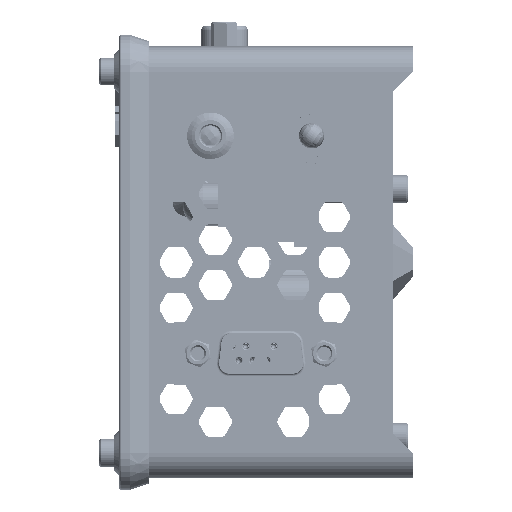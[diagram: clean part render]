
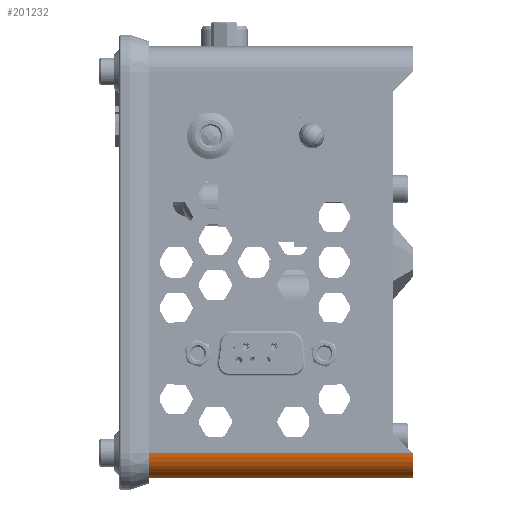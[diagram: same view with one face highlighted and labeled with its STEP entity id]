
A CAD part, left-side view. The second image highlights one B-rep face of the part: STEP entity #201232.
In plain terms, the highlighted cylindrical face has radius 5 mm (diameter 10 mm), a partial arc.
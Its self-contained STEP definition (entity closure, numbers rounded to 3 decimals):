
#1786 = EDGE_LOOP ( 'NONE', ( #117973, #18511, #179246, #23545 ) ) ;
#1978 = CIRCLE ( 'NONE', #123492, 5. ) ;
#9238 = CARTESIAN_POINT ( 'NONE',  ( -56., 26., -42.7 ) ) ;
#18511 = ORIENTED_EDGE ( 'NONE', *, *, #118849, .F. ) ;
#23545 = ORIENTED_EDGE ( 'NONE', *, *, #90548, .F. ) ;
#49806 = VERTEX_POINT ( 'NONE', #122529 ) ;
#54034 = CARTESIAN_POINT ( 'NONE',  ( -56., 26., -37.7 ) ) ;
#54166 = DIRECTION ( 'NONE',  ( 0., -1., 0. ) ) ;
#56480 = DIRECTION ( 'NONE',  ( 0., 1., 0. ) ) ;
#57246 = DIRECTION ( 'NONE',  ( 0., 1., 0. ) ) ;
#58071 = DIRECTION ( 'NONE',  ( 0., -1., 0. ) ) ;
#68919 = CIRCLE ( 'NONE', #214821, 5. ) ;
#73852 = CARTESIAN_POINT ( 'NONE',  ( -56., 0., -42.7 ) ) ;
#77884 = AXIS2_PLACEMENT_3D ( 'NONE', #208073, #58071, #122287 ) ;
#90548 = EDGE_CURVE ( 'NONE', #158975, #129381, #93362, .T. ) ;
#93362 = LINE ( 'NONE', #109686, #176364 ) ;
#106328 = DIRECTION ( 'NONE',  ( 0., 0., -1. ) ) ;
#108256 = EDGE_CURVE ( 'NONE', #184558, #158975, #1978, .T. ) ;
#109686 = CARTESIAN_POINT ( 'NONE',  ( -61., 26., -37.7 ) ) ;
#113700 = EDGE_CURVE ( 'NONE', #129381, #49806, #68919, .T. ) ;
#117973 = ORIENTED_EDGE ( 'NONE', *, *, #108256, .F. ) ;
#118849 = EDGE_CURVE ( 'NONE', #49806, #184558, #119611, .T. ) ;
#119611 = LINE ( 'NONE', #73852, #132077 ) ;
#122287 = DIRECTION ( 'NONE',  ( 0., 0., -1. ) ) ;
#122529 = CARTESIAN_POINT ( 'NONE',  ( -56., -30., -42.7 ) ) ;
#123492 = AXIS2_PLACEMENT_3D ( 'NONE', #54034, #57246, #123605 ) ;
#123605 = DIRECTION ( 'NONE',  ( 0., 0., -1. ) ) ;
#124433 = CYLINDRICAL_SURFACE ( 'NONE', #77884, 5. ) ;
#129381 = VERTEX_POINT ( 'NONE', #170432 ) ;
#130329 = CARTESIAN_POINT ( 'NONE',  ( -61., 26., -37.7 ) ) ;
#132077 = VECTOR ( 'NONE', #56480, 1000. ) ;
#158975 = VERTEX_POINT ( 'NONE', #130329 ) ;
#170432 = CARTESIAN_POINT ( 'NONE',  ( -61., -30., -37.7 ) ) ;
#174328 = FACE_OUTER_BOUND ( 'NONE', #1786, .T. ) ;
#176364 = VECTOR ( 'NONE', #206442, 1000. ) ;
#179246 = ORIENTED_EDGE ( 'NONE', *, *, #113700, .F. ) ;
#184558 = VERTEX_POINT ( 'NONE', #9238 ) ;
#201232 = ADVANCED_FACE ( 'NONE', ( #174328 ), #124433, .T. ) ;
#203058 = CARTESIAN_POINT ( 'NONE',  ( -56., -30., -37.7 ) ) ;
#206442 = DIRECTION ( 'NONE',  ( 0., -1., 0. ) ) ;
#208073 = CARTESIAN_POINT ( 'NONE',  ( -56., 26., -37.7 ) ) ;
#214821 = AXIS2_PLACEMENT_3D ( 'NONE', #203058, #54166, #106328 ) ;
